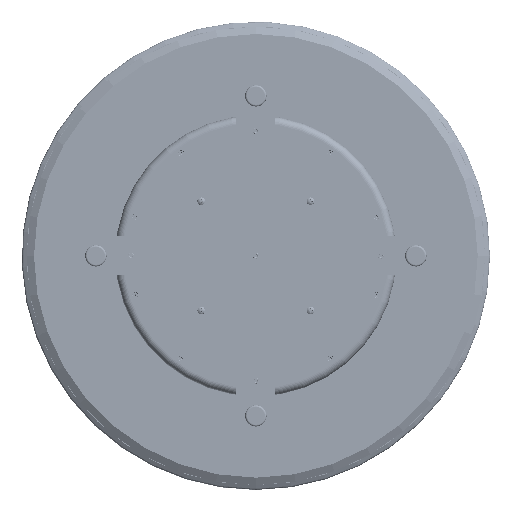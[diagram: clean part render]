
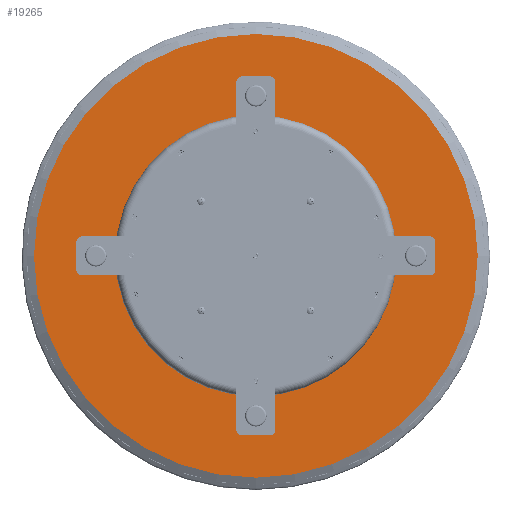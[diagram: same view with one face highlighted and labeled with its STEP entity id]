
A CAD part, front view. The second image highlights one B-rep face of the part: STEP entity #19265.
In plain terms, the highlighted planar face has unit normal (0, -1, 0).
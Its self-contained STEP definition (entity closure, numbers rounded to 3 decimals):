
#2231=CIRCLE('',#21800,14.213);
#3731=FACE_OUTER_BOUND('',#5037,.T.);
#5037=EDGE_LOOP('',(#17163));
#9529=VERTEX_POINT('',#48904);
#12107=EDGE_CURVE('',#9529,#9529,#2231,.T.);
#17163=ORIENTED_EDGE('',*,*,#12107,.T.);
#18213=PLANE('',#21803);
#19265=ADVANCED_FACE('',(#3731),#18213,.F.);
#21800=AXIS2_PLACEMENT_3D('',#48905,#26834,#26835);
#21803=AXIS2_PLACEMENT_3D('',#48910,#26841,#26842);
#26834=DIRECTION('center_axis',(0.,-1.,0.));
#26835=DIRECTION('ref_axis',(0.,0.,1.));
#26841=DIRECTION('center_axis',(0.,1.,0.));
#26842=DIRECTION('ref_axis',(0.,0.,1.));
#48904=CARTESIAN_POINT('',(0.,0.,
-14.213));
#48905=CARTESIAN_POINT('Origin',(0.,0.,0.));
#48910=CARTESIAN_POINT('Origin',(0.,0.,0.));
